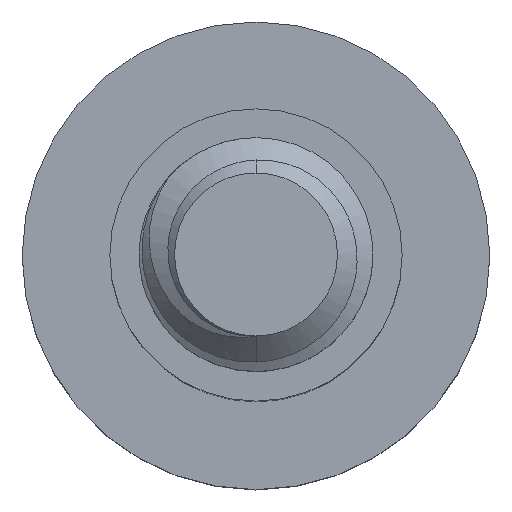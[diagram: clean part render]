
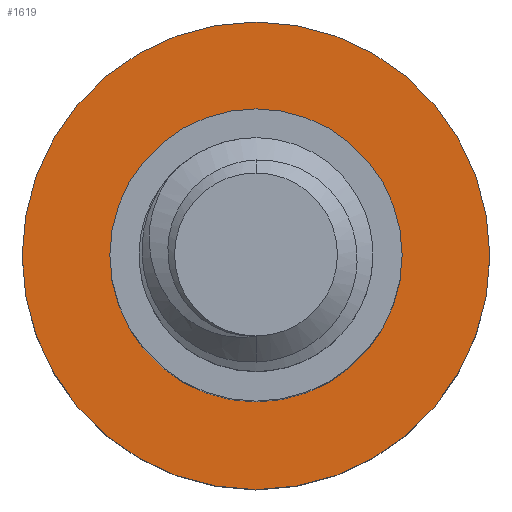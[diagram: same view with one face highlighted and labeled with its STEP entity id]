
A CAD part, top view. The second image highlights one B-rep face of the part: STEP entity #1619.
In plain terms, the highlighted planar face has unit normal (0, 0, 1).
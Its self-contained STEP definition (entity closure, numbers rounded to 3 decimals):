
#47 = DIRECTION ( 'NONE',  ( -1., 0., 0. ) ) ;
#116 = CIRCLE ( 'NONE', #787, 4. ) ;
#230 = DIRECTION ( 'NONE',  ( 0., 0., -1. ) ) ;
#243 = DIRECTION ( 'NONE',  ( -1., 0., 0. ) ) ;
#308 = ORIENTED_EDGE ( 'NONE', *, *, #1353, .T. ) ;
#332 = FACE_BOUND ( 'NONE', #550, .T. ) ;
#424 = ORIENTED_EDGE ( 'NONE', *, *, #766, .T. ) ;
#510 = CARTESIAN_POINT ( 'NONE',  ( 0., 0., -8. ) ) ;
#550 = EDGE_LOOP ( 'NONE', ( #308, #424 ) ) ;
#602 = ORIENTED_EDGE ( 'NONE', *, *, #849, .F. ) ;
#639 = DIRECTION ( 'NONE',  ( 0., 0., -1. ) ) ;
#649 = PLANE ( 'NONE',  #1143 ) ;
#766 = EDGE_CURVE ( 'NONE', #805, #1521, #1099, .T. ) ;
#787 = AXIS2_PLACEMENT_3D ( 'NONE', #1056, #230, #243 ) ;
#789 = ORIENTED_EDGE ( 'NONE', *, *, #1981, .F. ) ;
#801 = DIRECTION ( 'NONE',  ( -1., 0., 0. ) ) ;
#805 = VERTEX_POINT ( 'NONE', #1577 ) ;
#849 = EDGE_CURVE ( 'NONE', #867, #1372, #116, .T. ) ;
#854 = CARTESIAN_POINT ( 'NONE',  ( 0., 0., -8. ) ) ;
#867 = VERTEX_POINT ( 'NONE', #2073 ) ;
#939 = CARTESIAN_POINT ( 'NONE',  ( -2.5, 0., -8. ) ) ;
#1018 = CARTESIAN_POINT ( 'NONE',  ( -4., 0., -8. ) ) ;
#1056 = CARTESIAN_POINT ( 'NONE',  ( 0., 0., -8. ) ) ;
#1099 = CIRCLE ( 'NONE', #1794, 2.5 ) ;
#1143 = AXIS2_PLACEMENT_3D ( 'NONE', #510, #639, #801 ) ;
#1157 = FACE_OUTER_BOUND ( 'NONE', #2099, .T. ) ;
#1189 = DIRECTION ( 'NONE',  ( -1., 0., 0. ) ) ;
#1353 = EDGE_CURVE ( 'NONE', #1521, #805, #1888, .T. ) ;
#1372 = VERTEX_POINT ( 'NONE', #1018 ) ;
#1397 = AXIS2_PLACEMENT_3D ( 'NONE', #1510, #1499, #1189 ) ;
#1499 = DIRECTION ( 'NONE',  ( 0., 0., -1. ) ) ;
#1510 = CARTESIAN_POINT ( 'NONE',  ( 0., 0., -8. ) ) ;
#1520 = DIRECTION ( 'NONE',  ( 0., 0., -1. ) ) ;
#1521 = VERTEX_POINT ( 'NONE', #939 ) ;
#1572 = DIRECTION ( 'NONE',  ( 0., 0., -1. ) ) ;
#1577 = CARTESIAN_POINT ( 'NONE',  ( 2.5, 0., -8. ) ) ;
#1619 = ADVANCED_FACE ( 'NONE', ( #332, #1157 ), #649, .F. ) ;
#1717 = CARTESIAN_POINT ( 'NONE',  ( 0., 0., -8. ) ) ;
#1794 = AXIS2_PLACEMENT_3D ( 'NONE', #1717, #1572, #47 ) ;
#1808 = CIRCLE ( 'NONE', #1397, 4. ) ;
#1845 = DIRECTION ( 'NONE',  ( -1., 0., 0. ) ) ;
#1846 = AXIS2_PLACEMENT_3D ( 'NONE', #854, #1520, #1845 ) ;
#1888 = CIRCLE ( 'NONE', #1846, 2.5 ) ;
#1981 = EDGE_CURVE ( 'NONE', #1372, #867, #1808, .T. ) ;
#2073 = CARTESIAN_POINT ( 'NONE',  ( 4., 0., -8. ) ) ;
#2099 = EDGE_LOOP ( 'NONE', ( #602, #789 ) ) ;
